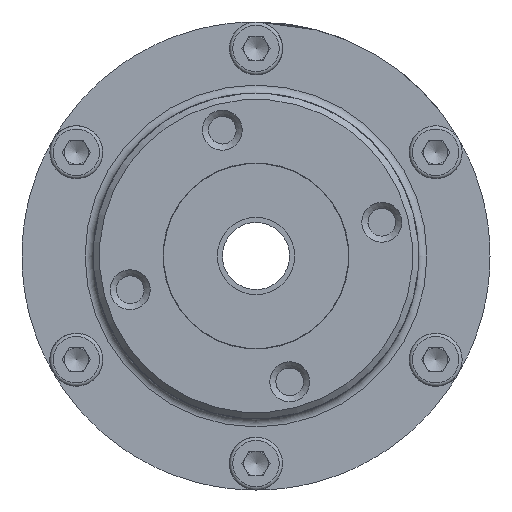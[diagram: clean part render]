
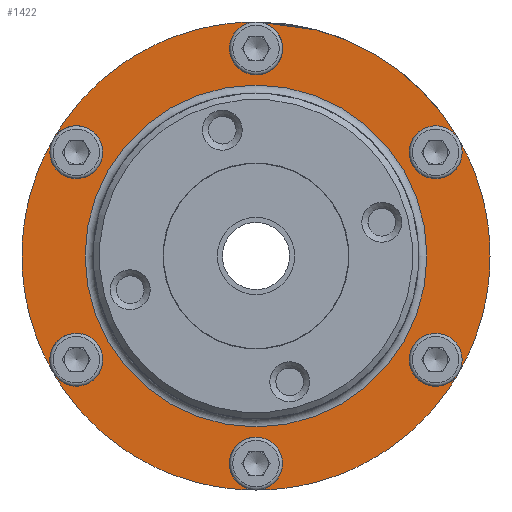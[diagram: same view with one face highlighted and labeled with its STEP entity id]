
A CAD part, left-side view. The second image highlights one B-rep face of the part: STEP entity #1422.
In plain terms, the highlighted planar face has unit normal (-1, 0, 0).
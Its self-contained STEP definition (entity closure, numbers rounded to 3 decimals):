
#1422 = ADVANCED_FACE( '', ( #3381, #3382 ), #3383, .F. );
#3381 = FACE_OUTER_BOUND( '', #5961, .T. );
#3382 = FACE_BOUND( '', #5962, .T. );
#3383 = PLANE( '', #5963 );
#5961 = EDGE_LOOP( '', ( #10225, #10226, #10227, #10228, #10229, #10230, #10231, #10232, #10233, #10234, #10235, #10236 ) );
#5962 = EDGE_LOOP( '', ( #10237 ) );
#5963 = AXIS2_PLACEMENT_3D( '', #10238, #10239, #10240 );
#10225 = ORIENTED_EDGE( '', *, *, #14899, .F. );
#10226 = ORIENTED_EDGE( '', *, *, #14900, .T. );
#10227 = ORIENTED_EDGE( '', *, *, #14901, .F. );
#10228 = ORIENTED_EDGE( '', *, *, #14902, .T. );
#10229 = ORIENTED_EDGE( '', *, *, #14743, .F. );
#10230 = ORIENTED_EDGE( '', *, *, #14903, .T. );
#10231 = ORIENTED_EDGE( '', *, *, #14904, .F. );
#10232 = ORIENTED_EDGE( '', *, *, #14905, .T. );
#10233 = ORIENTED_EDGE( '', *, *, #14906, .F. );
#10234 = ORIENTED_EDGE( '', *, *, #14907, .T. );
#10235 = ORIENTED_EDGE( '', *, *, #13847, .F. );
#10236 = ORIENTED_EDGE( '', *, *, #14908, .T. );
#10237 = ORIENTED_EDGE( '', *, *, #14909, .F. );
#10238 = CARTESIAN_POINT( '', ( -11.5, 0., 57.5 ) );
#10239 = DIRECTION( '', ( 1., 0., 0. ) );
#10240 = DIRECTION( '', ( 0., 1., 0. ) );
#13847 = EDGE_CURVE( '', #16445, #16445, #16446, .T. );
#14743 = EDGE_CURVE( '', #17862, #17862, #17863, .T. );
#14899 = EDGE_CURVE( '', #18082, #18082, #18083, .T. );
#14900 = EDGE_CURVE( '', #18082, #18084, #18085, .T. );
#14901 = EDGE_CURVE( '', #18084, #18084, #18086, .T. );
#14902 = EDGE_CURVE( '', #18084, #17862, #18087, .T. );
#14903 = EDGE_CURVE( '', #17862, #18088, #18089, .T. );
#14904 = EDGE_CURVE( '', #18088, #18088, #18090, .T. );
#14905 = EDGE_CURVE( '', #18088, #18091, #18092, .T. );
#14906 = EDGE_CURVE( '', #18091, #18091, #18093, .T. );
#14907 = EDGE_CURVE( '', #18091, #16445, #18094, .T. );
#14908 = EDGE_CURVE( '', #16445, #18082, #18095, .T. );
#14909 = EDGE_CURVE( '', #18096, #18096, #18097, .T. );
#16445 = VERTEX_POINT( '', #20466 );
#16446 = CIRCLE( '', #20467, 6.5 );
#17862 = VERTEX_POINT( '', #23270 );
#17863 = CIRCLE( '', #23271, 6.5 );
#18082 = VERTEX_POINT( '', #23811 );
#18083 = CIRCLE( '', #23812, 6.5 );
#18084 = VERTEX_POINT( '', #23813 );
#18085 = CIRCLE( '', #23814, 57.5 );
#18086 = CIRCLE( '', #23815, 6.5 );
#18087 = CIRCLE( '', #23816, 57.5 );
#18088 = VERTEX_POINT( '', #23817 );
#18089 = CIRCLE( '', #23818, 57.5 );
#18090 = CIRCLE( '', #23819, 6.5 );
#18091 = VERTEX_POINT( '', #23820 );
#18092 = CIRCLE( '', #23821, 57.5 );
#18093 = CIRCLE( '', #23822, 6.5 );
#18094 = CIRCLE( '', #23823, 57.5 );
#18095 = CIRCLE( '', #23824, 57.5 );
#18096 = VERTEX_POINT( '', #23825 );
#18097 = CIRCLE( '', #23826, 42. );
#20466 = CARTESIAN_POINT( '', ( -11.5, -49.796, -28.75 ) );
#20467 = AXIS2_PLACEMENT_3D( '', #26271, #26272, #26273 );
#23270 = CARTESIAN_POINT( '', ( -11.5, 49.796, 28.75 ) );
#23271 = AXIS2_PLACEMENT_3D( '', #27521, #27522, #27523 );
#23811 = CARTESIAN_POINT( '', ( -11.5, -49.796, 28.75 ) );
#23812 = AXIS2_PLACEMENT_3D( '', #27711, #27712, #27713 );
#23813 = CARTESIAN_POINT( '', ( -11.5, 0., 57.5 ) );
#23814 = AXIS2_PLACEMENT_3D( '', #27714, #27715, #27716 );
#23815 = AXIS2_PLACEMENT_3D( '', #27717, #27718, #27719 );
#23816 = AXIS2_PLACEMENT_3D( '', #27720, #27721, #27722 );
#23817 = CARTESIAN_POINT( '', ( -11.5, 49.796, -28.75 ) );
#23818 = AXIS2_PLACEMENT_3D( '', #27723, #27724, #27725 );
#23819 = AXIS2_PLACEMENT_3D( '', #27726, #27727, #27728 );
#23820 = CARTESIAN_POINT( '', ( -11.5, 0., -57.5 ) );
#23821 = AXIS2_PLACEMENT_3D( '', #27729, #27730, #27731 );
#23822 = AXIS2_PLACEMENT_3D( '', #27732, #27733, #27734 );
#23823 = AXIS2_PLACEMENT_3D( '', #27735, #27736, #27737 );
#23824 = AXIS2_PLACEMENT_3D( '', #27738, #27739, #27740 );
#23825 = CARTESIAN_POINT( '', ( -11.5, 0., 42. ) );
#23826 = AXIS2_PLACEMENT_3D( '', #27741, #27742, #27743 );
#26271 = CARTESIAN_POINT( '', ( -11.5, -44.167, -25.5 ) );
#26272 = DIRECTION( '', ( -1., 0., 0. ) );
#26273 = DIRECTION( '', ( 0., 0.866, 0.5 ) );
#27521 = CARTESIAN_POINT( '', ( -11.5, 44.167, 25.5 ) );
#27522 = DIRECTION( '', ( -1., 0., 0. ) );
#27523 = DIRECTION( '', ( 0., -0.866, -0.5 ) );
#27711 = CARTESIAN_POINT( '', ( -11.5, -44.167, 25.5 ) );
#27712 = DIRECTION( '', ( -1., 0., 0. ) );
#27713 = DIRECTION( '', ( 0., 0.866, -0.5 ) );
#27714 = CARTESIAN_POINT( '', ( -11.5, 0., 0. ) );
#27715 = DIRECTION( '', ( -1., 0., 0. ) );
#27716 = DIRECTION( '', ( 0., 0., -1. ) );
#27717 = CARTESIAN_POINT( '', ( -11.5, 0., 51. ) );
#27718 = DIRECTION( '', ( -1., 0., 0. ) );
#27719 = DIRECTION( '', ( 0., 0., -1. ) );
#27720 = CARTESIAN_POINT( '', ( -11.5, 0., 0. ) );
#27721 = DIRECTION( '', ( -1., 0., 0. ) );
#27722 = DIRECTION( '', ( 0., 0., -1. ) );
#27723 = CARTESIAN_POINT( '', ( -11.5, 0., 0. ) );
#27724 = DIRECTION( '', ( -1., 0., 0. ) );
#27725 = DIRECTION( '', ( 0., 0., -1. ) );
#27726 = CARTESIAN_POINT( '', ( -11.5, 44.167, -25.5 ) );
#27727 = DIRECTION( '', ( -1., 0., 0. ) );
#27728 = DIRECTION( '', ( 0., -0.866, 0.5 ) );
#27729 = CARTESIAN_POINT( '', ( -11.5, 0., 0. ) );
#27730 = DIRECTION( '', ( -1., 0., 0. ) );
#27731 = DIRECTION( '', ( 0., 0., -1. ) );
#27732 = CARTESIAN_POINT( '', ( -11.5, 0., -51. ) );
#27733 = DIRECTION( '', ( -1., 0., 0. ) );
#27734 = DIRECTION( '', ( 0., 0., 1. ) );
#27735 = CARTESIAN_POINT( '', ( -11.5, 0., 0. ) );
#27736 = DIRECTION( '', ( -1., 0., 0. ) );
#27737 = DIRECTION( '', ( 0., 0., -1. ) );
#27738 = CARTESIAN_POINT( '', ( -11.5, 0., 0. ) );
#27739 = DIRECTION( '', ( -1., 0., 0. ) );
#27740 = DIRECTION( '', ( 0., 0., -1. ) );
#27741 = CARTESIAN_POINT( '', ( -11.5, 0., 0. ) );
#27742 = DIRECTION( '', ( -1., 0., 0. ) );
#27743 = DIRECTION( '', ( 0., 0., 1. ) );
